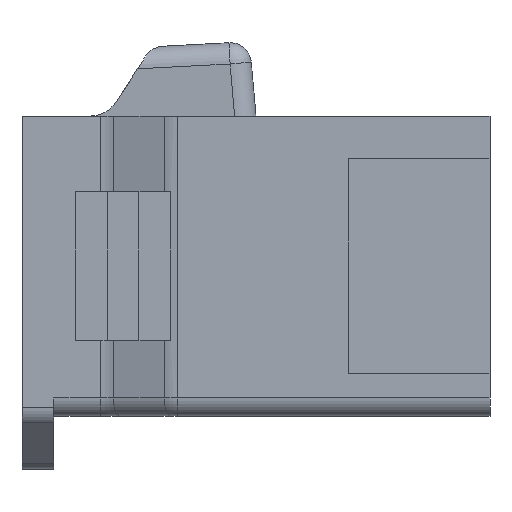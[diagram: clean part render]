
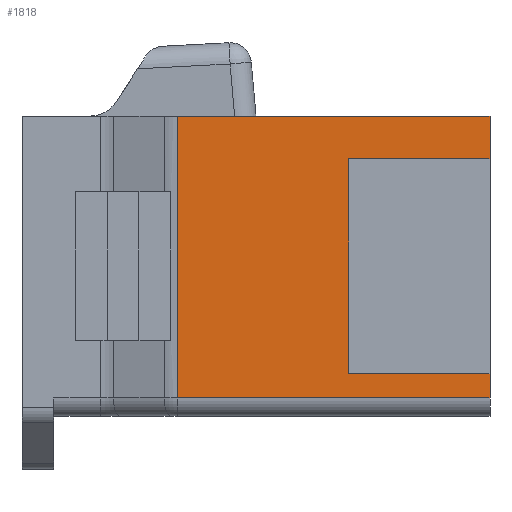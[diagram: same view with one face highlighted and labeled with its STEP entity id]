
A CAD part, front view. The second image highlights one B-rep face of the part: STEP entity #1818.
In plain terms, the highlighted planar face has unit normal (0, -1, 0).
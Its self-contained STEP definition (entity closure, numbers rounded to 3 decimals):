
#271=CARTESIAN_POINT('Line Origine',(-3.325,-4.85,0.45)) ;
#275=CARTESIAN_POINT('Vertex',(-6.65,-4.85,0.45)) ;
#277=CARTESIAN_POINT('Vertex',(0.,-4.85,0.45)) ;
#350=CARTESIAN_POINT('Vertex',(-6.65,-4.85,-9.65)) ;
#360=CARTESIAN_POINT('Line Origine',(-6.65,-4.85,-4.6)) ;
#470=CARTESIAN_POINT('Line Origine',(-3.325,-4.85,-9.65)) ;
#474=CARTESIAN_POINT('Vertex',(0.,-4.85,-9.65)) ;
#1702=CARTESIAN_POINT('Line Origine',(-14.675,-4.85,0.)) ;
#1706=CARTESIAN_POINT('Vertex',(-14.675,-4.85,-10.8)) ;
#1708=CARTESIAN_POINT('Vertex',(-14.675,-4.85,2.45)) ;
#1779=CARTESIAN_POINT('Axis2P3D Location',(0.,-4.85,2.45)) ;
#1784=CARTESIAN_POINT('Line Origine',(0.,-4.85,-10.225)) ;
#1788=CARTESIAN_POINT('Vertex',(0.,-4.85,-10.8)) ;
#1791=CARTESIAN_POINT('Line Origine',(0.,-4.85,1.45)) ;
#1795=CARTESIAN_POINT('Vertex',(0.,-4.85,2.45)) ;
#1798=CARTESIAN_POINT('Line Origine',(-7.338,-4.85,2.45)) ;
#1803=CARTESIAN_POINT('Line Origine',(-7.338,-4.85,-10.8)) ;
#272=DIRECTION('Vector Direction',(1.,0.,0.)) ;
#361=DIRECTION('Vector Direction',(0.,0.,1.)) ;
#471=DIRECTION('Vector Direction',(1.,0.,0.)) ;
#1703=DIRECTION('Vector Direction',(0.,0.,1.)) ;
#1780=DIRECTION('Axis2P3D Direction',(0.,-1.,0.)) ;
#1781=DIRECTION('Axis2P3D XDirection',(0.,0.,-1.)) ;
#1785=DIRECTION('Vector Direction',(0.,0.,1.)) ;
#1792=DIRECTION('Vector Direction',(0.,0.,1.)) ;
#1799=DIRECTION('Vector Direction',(1.,0.,0.)) ;
#1804=DIRECTION('Vector Direction',(1.,0.,0.)) ;
#1782=AXIS2_PLACEMENT_3D('Plane Axis2P3D',#1779,#1780,#1781) ;
#1809=ORIENTED_EDGE('',*,*,#1790,.T.) ;
#1810=ORIENTED_EDGE('',*,*,#476,.F.) ;
#1811=ORIENTED_EDGE('',*,*,#364,.T.) ;
#1812=ORIENTED_EDGE('',*,*,#279,.T.) ;
#1813=ORIENTED_EDGE('',*,*,#1797,.T.) ;
#1814=ORIENTED_EDGE('',*,*,#1802,.F.) ;
#1815=ORIENTED_EDGE('',*,*,#1710,.F.) ;
#1816=ORIENTED_EDGE('',*,*,#1807,.T.) ;
#273=VECTOR('Line Direction',#272,1.) ;
#362=VECTOR('Line Direction',#361,1.) ;
#472=VECTOR('Line Direction',#471,1.) ;
#1704=VECTOR('Line Direction',#1703,1.) ;
#1786=VECTOR('Line Direction',#1785,1.) ;
#1793=VECTOR('Line Direction',#1792,1.) ;
#1800=VECTOR('Line Direction',#1799,1.) ;
#1805=VECTOR('Line Direction',#1804,1.) ;
#1818=ADVANCED_FACE('\X2\FF8AFF9FFF70FF82\X0\ \X2\FF8EFF9EFF83FF9EFF68FF70\X0\',(#1817),#1783,.T.) ;
#279=EDGE_CURVE('',#276,#278,#274,.T.) ;
#364=EDGE_CURVE('',#351,#276,#363,.T.) ;
#476=EDGE_CURVE('',#351,#475,#473,.T.) ;
#1710=EDGE_CURVE('',#1707,#1709,#1705,.T.) ;
#1790=EDGE_CURVE('',#1789,#475,#1787,.T.) ;
#1797=EDGE_CURVE('',#278,#1796,#1794,.T.) ;
#1802=EDGE_CURVE('',#1709,#1796,#1801,.T.) ;
#1807=EDGE_CURVE('',#1707,#1789,#1806,.T.) ;
#1808=EDGE_LOOP('',(#1809,#1810,#1811,#1812,#1813,#1814,#1815,#1816)) ;
#1817=FACE_OUTER_BOUND('',#1808,.T.) ;
#274=LINE('Line',#271,#273) ;
#363=LINE('Line',#360,#362) ;
#473=LINE('Line',#470,#472) ;
#1705=LINE('Line',#1702,#1704) ;
#1787=LINE('Line',#1784,#1786) ;
#1794=LINE('Line',#1791,#1793) ;
#1801=LINE('Line',#1798,#1800) ;
#1806=LINE('Line',#1803,#1805) ;
#1783=PLANE('',#1782) ;
#276=VERTEX_POINT('',#275) ;
#278=VERTEX_POINT('',#277) ;
#351=VERTEX_POINT('',#350) ;
#475=VERTEX_POINT('',#474) ;
#1707=VERTEX_POINT('',#1706) ;
#1709=VERTEX_POINT('',#1708) ;
#1789=VERTEX_POINT('',#1788) ;
#1796=VERTEX_POINT('',#1795) ;
